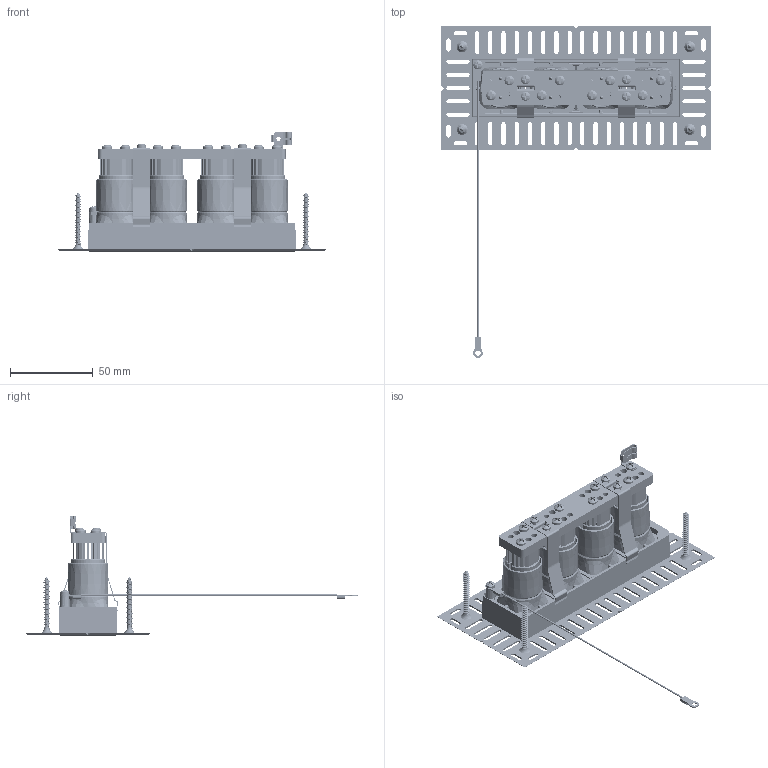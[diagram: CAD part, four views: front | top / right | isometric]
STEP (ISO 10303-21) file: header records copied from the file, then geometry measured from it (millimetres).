
FILE_DESCRIPTION((''),'2;1');
FILE_NAME('MOOD_PRO_4X_LINEAR_TRIMLESS_ASM','2020-10-22T',('Administrator'),(''),'PRO/ENGINEER BY PARAMETRIC TECHNOLOGY CORPORATION, 2001280','PRO/ENGINEER BY PARAMETRIC TECHNOLOGY CORPORATION, 2001280','');
FILE_SCHEMA(('CONFIG_CONTROL_DESIGN'));
Length unit declared in the file: millimetre
Products named in the file (21): 44222-V2; MOOD_4X_42252_5_2; 42249_1_1; 41223_3_1; CD52961_10; 1_52340-PCB_4; 1_34839_1; 42252-41223-52961-52340_ASM_6_ASM; 42252-41223-52961-52340_ASM; 44223V2; 1_21117-M320; 1_54803; 1_01723; PARTBODY_1-100368_2; PARTBODY_2-102027_4; PARTBODY_3_2; 1_42808_00_0_ASM_5_ASM; 41933; 31574; 1-38486; MOOD_PRO_4X_LINEAR_TRIMLESS_ASM
Assembly tree (41 placements, depth 4):
  MOOD_PRO_4X_LINEAR_TRIMLESS_ASM
    44222-V2
    42252-41223-52961-52340_ASM  x4
      42252-41223-52961-52340_ASM_6_ASM
        MOOD_4X_42252_5_2
        42249_1_1
        41223_3_1
        CD52961_10
        1_52340-PCB_4
        1_34839_1  x2
    44223V2
    1_21117-M320  x8
    1_54803  x4
    1_01723  x5
    1_42808_00_0_ASM_5_ASM
      PARTBODY_1-100368_2
      PARTBODY_2-102027_4
      PARTBODY_3_2
    41933
    31574
    1-38486  x4
Bounding box: 162.6 x 200.6 x 72.3 mm (x, y, z)
Volume: 85455 mm3; surface area: 119640.8 mm2
Topology: 56 solids, 56 shells, 4612 faces, 12413 edges, 7906 vertices
Faces by surface type: plane 2279, cylinder 1363, bspline 526, cone 316, sphere 78, torus 32, revolution 16, extrusion 2
Entity records: 80597 total; most frequent: CARTESIAN_POINT 33420, ORIENTED_EDGE 9990, DIRECTION 9237, EDGE_CURVE 4995, VERTEX_POINT 3190, AXIS2_PLACEMENT_3D 3121, VECTOR 2991, LINE 2989
